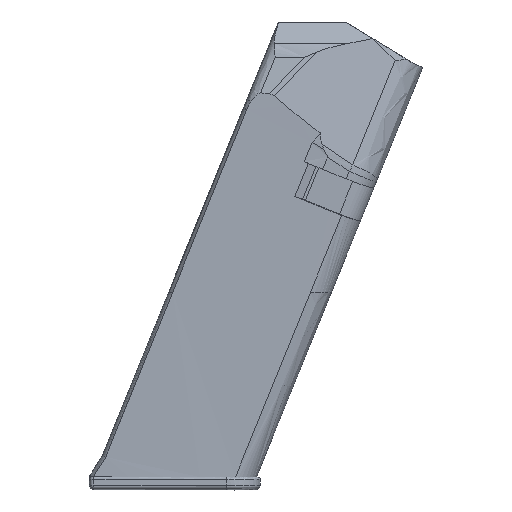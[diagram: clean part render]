
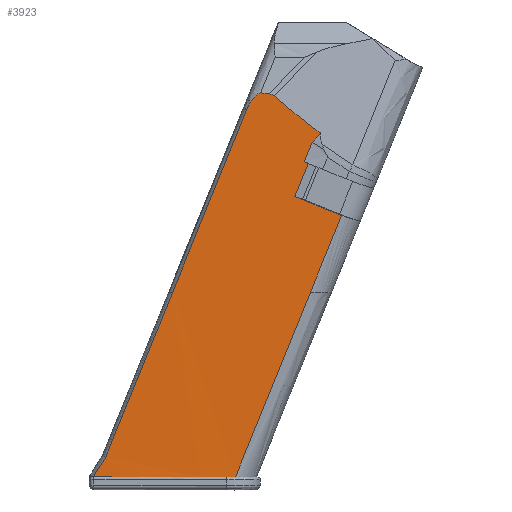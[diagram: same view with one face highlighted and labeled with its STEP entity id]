
A CAD part, top view. The second image highlights one B-rep face of the part: STEP entity #3923.
In plain terms, the highlighted cylindrical face has radius 941.89 mm (diameter 1883.78 mm), a partial arc.
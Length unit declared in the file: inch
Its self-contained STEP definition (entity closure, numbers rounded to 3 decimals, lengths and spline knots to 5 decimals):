
#68=CYLINDRICAL_SURFACE('',#4272,37.08227);
#245=ELLIPSE('',#4224,279.84842,37.08227);
#246=ELLIPSE('',#4225,141.25472,37.08227);
#249=ELLIPSE('',#4230,37.23056,37.08227);
#250=ELLIPSE('',#4233,37.23056,37.08227);
#253=ELLIPSE('',#4240,40.01527,37.08227);
#265=ELLIPSE('',#4271,218.6658,37.08227);
#348=B_SPLINE_CURVE_WITH_KNOTS('',3,(#8355,#8356,#8357,#8358,#8359,#8360,
#8361,#8362),.UNSPECIFIED.,.F.,.F.,(4,2,2,4),(-9.95541,-9.9274,
-9.86379,-9.83706),.UNSPECIFIED.);
#368=B_SPLINE_CURVE_WITH_KNOTS('',3,(#8921,#8922,#8923,#8924,#8925,#8926,
#8927,#8928,#8929,#8930),.UNSPECIFIED.,.F.,.F.,(4,2,2,2,4),(-0.26293,
-0.24038,-0.21172,-0.13152,0.),
 .UNSPECIFIED.);
#369=B_SPLINE_CURVE_WITH_KNOTS('',3,(#8932,#8933,#8934,#8935,#8936,#8937,
#8938),.UNSPECIFIED.,.F.,.F.,(4,3,4),(-0.2198,-0.1083,
0.),.UNSPECIFIED.);
#370=B_SPLINE_CURVE_WITH_KNOTS('',3,(#8943,#8944,#8945,#8946),
 .UNSPECIFIED.,.F.,.F.,(4,4),(10.17278,10.65762),
 .UNSPECIFIED.);
#699=FACE_OUTER_BOUND('',#926,.T.);
#926=EDGE_LOOP('',(#3427,#3428,#3429,#3430,#3431,#3432,#3433,#3434,#3435,
#3436,#3437,#3438,#3439,#3440,#3441,#3442));
#1170=LINE('',#8401,#1466);
#1172=LINE('',#8410,#1468);
#1174=LINE('',#8433,#1470);
#1175=LINE('',#8445,#1471);
#1207=LINE('',#8940,#1503);
#1208=LINE('',#8942,#1504);
#1466=VECTOR('',#4963,0.3937);
#1468=VECTOR('',#4975,0.3937);
#1470=VECTOR('',#4983,0.3937);
#1471=VECTOR('',#4984,0.3937);
#1503=VECTOR('',#5092,0.3937);
#1504=VECTOR('',#5093,0.3937);
#1826=VERTEX_POINT('',#8353);
#1827=VERTEX_POINT('',#8354);
#1830=VERTEX_POINT('',#8369);
#1832=VERTEX_POINT('',#8391);
#1833=VERTEX_POINT('',#8400);
#1834=VERTEX_POINT('',#8405);
#1835=VERTEX_POINT('',#8409);
#1836=VERTEX_POINT('',#8413);
#1837=VERTEX_POINT('',#8422);
#1838=VERTEX_POINT('',#8444);
#1849=VERTEX_POINT('',#8616);
#1880=VERTEX_POINT('',#8916);
#1881=VERTEX_POINT('',#8920);
#1882=VERTEX_POINT('',#8931);
#1883=VERTEX_POINT('',#8939);
#1884=VERTEX_POINT('',#8941);
#2326=EDGE_CURVE('',#1826,#1827,#348,.T.);
#2333=EDGE_CURVE('',#1830,#1826,#245,.T.);
#2335=EDGE_CURVE('',#1832,#1830,#246,.T.);
#2336=EDGE_CURVE('',#1833,#1832,#1170,.T.);
#2339=EDGE_CURVE('',#1834,#1833,#249,.F.);
#2341=EDGE_CURVE('',#1834,#1835,#1172,.T.);
#2343=EDGE_CURVE('',#1835,#1836,#250,.F.);
#2346=EDGE_CURVE('',#1836,#1837,#1174,.T.);
#2347=EDGE_CURVE('',#1837,#1838,#1175,.T.);
#2364=EDGE_CURVE('',#1849,#1838,#253,.T.);
#2416=EDGE_CURVE('',#1827,#1880,#265,.T.);
#2418=EDGE_CURVE('',#1880,#1881,#368,.T.);
#2419=EDGE_CURVE('',#1881,#1882,#369,.T.);
#2420=EDGE_CURVE('',#1883,#1882,#1207,.T.);
#2421=EDGE_CURVE('',#1884,#1883,#1208,.T.);
#2422=EDGE_CURVE('',#1884,#1849,#370,.T.);
#3427=ORIENTED_EDGE('',*,*,#2346,.F.);
#3428=ORIENTED_EDGE('',*,*,#2343,.F.);
#3429=ORIENTED_EDGE('',*,*,#2341,.F.);
#3430=ORIENTED_EDGE('',*,*,#2339,.T.);
#3431=ORIENTED_EDGE('',*,*,#2336,.T.);
#3432=ORIENTED_EDGE('',*,*,#2335,.T.);
#3433=ORIENTED_EDGE('',*,*,#2333,.T.);
#3434=ORIENTED_EDGE('',*,*,#2326,.T.);
#3435=ORIENTED_EDGE('',*,*,#2416,.T.);
#3436=ORIENTED_EDGE('',*,*,#2418,.T.);
#3437=ORIENTED_EDGE('',*,*,#2419,.T.);
#3438=ORIENTED_EDGE('',*,*,#2420,.F.);
#3439=ORIENTED_EDGE('',*,*,#2421,.F.);
#3440=ORIENTED_EDGE('',*,*,#2422,.T.);
#3441=ORIENTED_EDGE('',*,*,#2364,.T.);
#3442=ORIENTED_EDGE('',*,*,#2347,.F.);
#3923=ADVANCED_FACE('',(#699),#68,.T.);
#4224=AXIS2_PLACEMENT_3D('',#8374,#4957,#4958);
#4225=AXIS2_PLACEMENT_3D('',#8398,#4959,#4960);
#4230=AXIS2_PLACEMENT_3D('',#8406,#4970,#4971);
#4233=AXIS2_PLACEMENT_3D('',#8414,#4979,#4980);
#4240=AXIS2_PLACEMENT_3D('',#8617,#5000,#5001);
#4271=AXIS2_PLACEMENT_3D('',#8917,#5087,#5088);
#4272=AXIS2_PLACEMENT_3D('',#8919,#5090,#5091);
#4957=DIRECTION('center_axis',(-0.075,-0.113,-0.991));
#4958=DIRECTION('ref_axis',(0.37,0.92,-0.132));
#4959=DIRECTION('center_axis',(-0.668,0.554,0.497));
#4960=DIRECTION('ref_axis',(0.572,0.809,-0.135));
#4963=DIRECTION('',(0.376,0.927,0.));
#4970=DIRECTION('center_axis',(0.375,0.923,0.089));
#4971=DIRECTION('ref_axis',(0.035,0.082,-0.996));
#4975=DIRECTION('',(-0.378,-0.926,0.));
#4979=DIRECTION('center_axis',(-0.375,-0.923,-0.089));
#4980=DIRECTION('ref_axis',(0.035,0.082,-0.996));
#4983=DIRECTION('',(-0.376,-0.927,0.));
#4984=DIRECTION('',(-0.376,-0.927,0.));
#5000=DIRECTION('center_axis',(0.,1.,0.));
#5001=DIRECTION('ref_axis',(1.,0.,0.));
#5087=DIRECTION('center_axis',(0.,-0.183,
-0.983));
#5088=DIRECTION('ref_axis',(0.382,0.909,-0.169));
#5090=DIRECTION('center_axis',(-0.376,-0.927,0.));
#5091=DIRECTION('ref_axis',(0.031,-0.013,-0.999));
#5092=DIRECTION('',(0.376,0.927,0.));
#5093=DIRECTION('',(0.376,0.927,0.));
#8353=CARTESIAN_POINT('',(2.17078,3.14886,0.43297));
#8354=CARTESIAN_POINT('',(2.12642,3.16661,0.432));
#8355=CARTESIAN_POINT('Ctrl Pts',(2.17078,3.14886,0.43297));
#8356=CARTESIAN_POINT('Ctrl Pts',(2.16789,3.15141,0.4329));
#8357=CARTESIAN_POINT('Ctrl Pts',(2.16472,3.15372,0.43282));
#8358=CARTESIAN_POINT('Ctrl Pts',(2.15374,3.16029,0.43257));
#8359=CARTESIAN_POINT('Ctrl Pts',(2.14509,3.16325,0.43238));
#8360=CARTESIAN_POINT('Ctrl Pts',(2.13349,3.16568,0.43214));
#8361=CARTESIAN_POINT('Ctrl Pts',(2.12998,3.16622,0.43207));
#8362=CARTESIAN_POINT('Ctrl Pts',(2.12642,3.16661,0.432));
#8369=CARTESIAN_POINT('',(2.56547,2.82952,0.43931));
#8374=CARTESIAN_POINT('Origin',(107.08605,259.59125,-36.64217));
#8391=CARTESIAN_POINT('',(2.49611,2.74621,0.43908));
#8398=CARTESIAN_POINT('Origin',(29.4911,68.49793,-36.64217));
#8400=CARTESIAN_POINT('',(2.42841,2.57948,0.43908));
#8401=CARTESIAN_POINT('',(1.21542,-0.40776,0.43908));
#8405=CARTESIAN_POINT('',(2.46324,2.56532,0.43934));
#8406=CARTESIAN_POINT('Origin',(3.93139,5.55196,-36.64217));
#8409=CARTESIAN_POINT('',(2.34614,2.27867,0.43934));
#8410=CARTESIAN_POINT('',(2.46324,2.56532,0.43934));
#8413=CARTESIAN_POINT('',(2.75124,2.11423,0.43956));
#8414=CARTESIAN_POINT('Origin',(3.81489,5.26506,-36.64217));
#8422=CARTESIAN_POINT('',(2.48212,1.45148,0.43956));
#8433=CARTESIAN_POINT('',(1.65473,-0.58615,0.43956));
#8444=CARTESIAN_POINT('',(1.83252,-0.14829,0.43956));
#8445=CARTESIAN_POINT('',(1.82009,-0.17889,0.43956));
#8616=CARTESIAN_POINT('',(0.60425,-0.14772,0.42822));
#8617=CARTESIAN_POINT('Origin',(1.6168,-0.14819,-36.64217));
#8916=CARTESIAN_POINT('',(2.05155,3.17518,0.43041));
#8917=CARTESIAN_POINT('Origin',(83.82314,202.30163,-36.64217));
#8919=CARTESIAN_POINT('Origin',(1.67249,-0.01103,-36.64217));
#8920=CARTESIAN_POINT('',(1.97276,3.10697,0.4293));
#8921=CARTESIAN_POINT('Ctrl Pts',(2.05155,3.17518,0.43041));
#8922=CARTESIAN_POINT('Ctrl Pts',(2.0486,3.17553,0.43035));
#8923=CARTESIAN_POINT('Ctrl Pts',(2.0456,3.17512,0.43029));
#8924=CARTESIAN_POINT('Ctrl Pts',(2.03911,3.17327,0.43016));
#8925=CARTESIAN_POINT('Ctrl Pts',(2.03554,3.17154,0.4301));
#8926=CARTESIAN_POINT('Ctrl Pts',(2.0232,3.16424,0.4299));
#8927=CARTESIAN_POINT('Ctrl Pts',(2.0141,3.15585,0.42977));
#8928=CARTESIAN_POINT('Ctrl Pts',(1.99478,3.13589,0.42953));
#8929=CARTESIAN_POINT('Ctrl Pts',(1.98294,3.1209,0.4294));
#8930=CARTESIAN_POINT('Ctrl Pts',(1.97276,3.10697,0.4293));
#8931=CARTESIAN_POINT('',(1.93139,3.03037,0.42907));
#8932=CARTESIAN_POINT('Ctrl Pts',(1.97276,3.10697,0.4293));
#8933=CARTESIAN_POINT('Ctrl Pts',(1.96414,3.09517,0.42921));
#8934=CARTESIAN_POINT('Ctrl Pts',(1.95632,3.08221,0.42916));
#8935=CARTESIAN_POINT('Ctrl Pts',(1.94947,3.06928,0.42912));
#8936=CARTESIAN_POINT('Ctrl Pts',(1.94282,3.05672,0.42908));
#8937=CARTESIAN_POINT('Ctrl Pts',(1.93673,3.04354,0.42907));
#8938=CARTESIAN_POINT('Ctrl Pts',(1.93139,3.03037,0.42907));
#8939=CARTESIAN_POINT('',(1.29049,1.45204,0.42907));
#8940=CARTESIAN_POINT('',(0.63157,-0.17069,0.42907));
#8941=CARTESIAN_POINT('',(0.71104,0.02504,0.42907));
#8942=CARTESIAN_POINT('',(0.59395,-0.26334,0.42907));
#8943=CARTESIAN_POINT('Ctrl Pts',(0.71104,0.02504,
0.42907));
#8944=CARTESIAN_POINT('Ctrl Pts',(0.6753,-0.03279,
0.42879));
#8945=CARTESIAN_POINT('Ctrl Pts',(0.6397,-0.09038,
0.42851));
#8946=CARTESIAN_POINT('Ctrl Pts',(0.60425,-0.14772,
0.42822));
